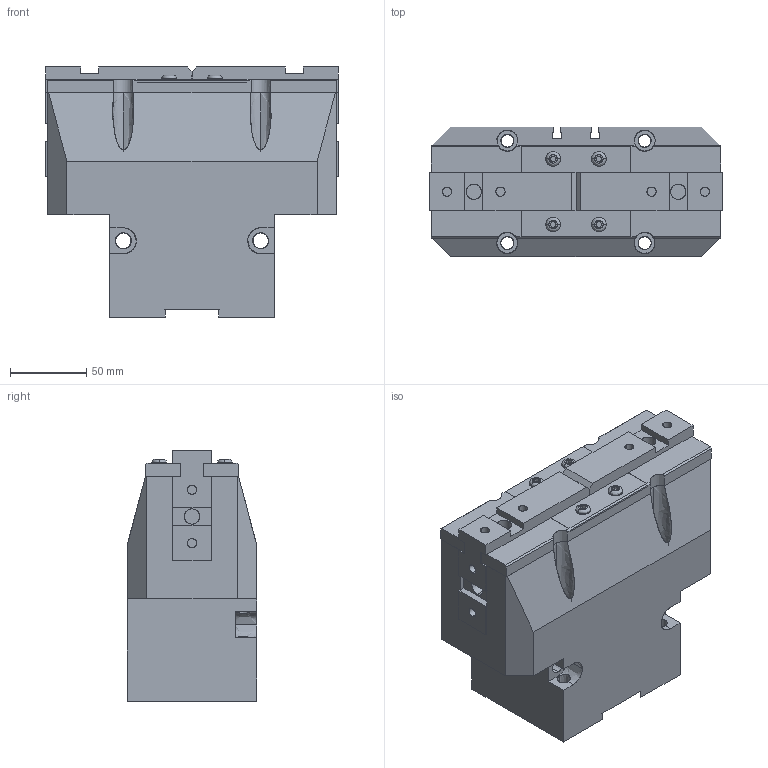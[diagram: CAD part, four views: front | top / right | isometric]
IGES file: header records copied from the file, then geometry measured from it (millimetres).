
Global section: file name: C:\Documents and Settings\Administrateur\Mes documents\OPE-190-X-CLOSED.igs; native system: AutoCAD-16.0s (LMS Tech) (Microsoft Windows NT Version 5.1 (x86)); preprocessor: Autodesk IGES Translator Mechanical Desktop.R7.0.43.0 (Mar 18 2003) from Autodesk, Inc.; date: 20050629.221500; units: millimetre
Bounding box: 192 x 85 x 164 mm (x, y, z)
Surface area: 223797.9 mm2 (no closed solid volume)
Topology: 0 solids, 0 shells, 299 faces, 3333 edges, 3426 vertices
Faces by surface type: bspline 299
